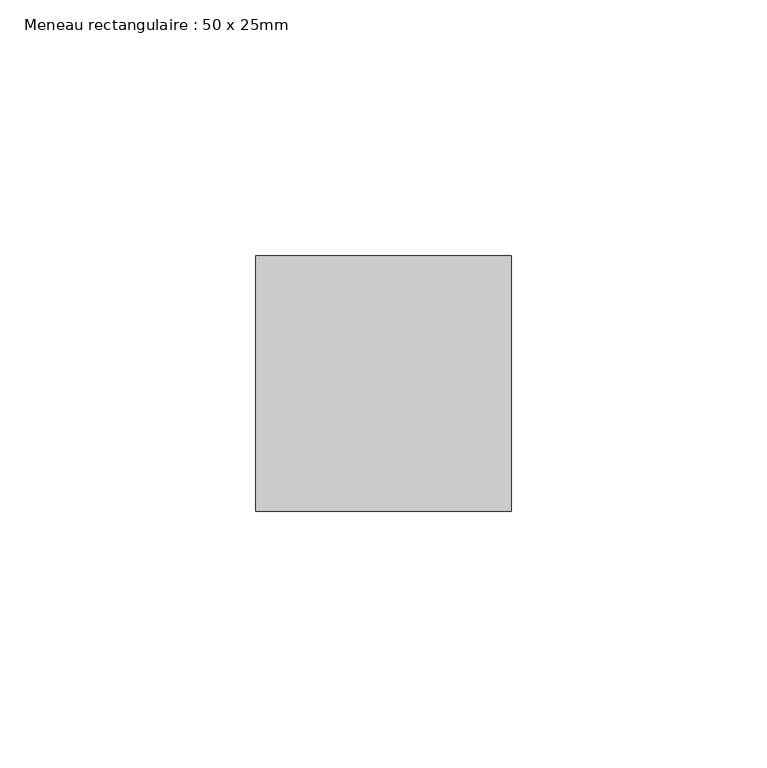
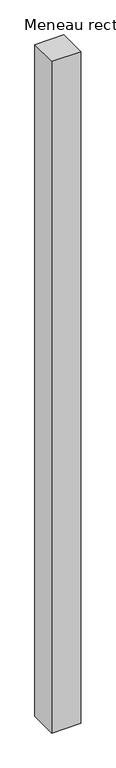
"""IFC4 building model written with IfcOpenShell, lengths in millimetres: member geometry, Meneau rectangulaire : 50 x 25mm."""

from ifc_helpers import new_model, si_unit, frame, origin, place, context, project, spatial, polyline, outline, extrude, source, transform, mapped, element, save


def meneau_rectangulaire_50_x_25mm_e0da25ca(model_context):
    return source(origin(), model_context, "Body", "SweptSolid", [
        extrude(outline(polyline([(0.0, 0.0), (0.0, -50.0), (-50.0, -50.0), (-50.0, 0.0), (0.0, 0.0)])), frame((0.0, 0.0, -1226.0), z_axis=(0.0, 0.0, 1.0), x_axis=(1.0, 0.0, 0.0)), (0.0, 0.0, 1.0), 1226.0),
    ])


if __name__ == "__main__":
    model = new_model("IFC4")
    model_context = context("Model", 3, world=origin())
    ifc_project = project(units=[si_unit("LENGTHUNIT", "METRE", prefix="MILLI")], contexts=[model_context])
    site = spatial("IfcSite", under=ifc_project)
    building = spatial("IfcBuilding", under=site)
    placement = place(None, origin())
    meneau_rectangulaire_50_x_25mm_shape = meneau_rectangulaire_50_x_25mm_e0da25ca(model_context)
    element("IfcMember", 1, ObjectType="Meneau rectangulaire : 50 x 25mm", at=placement, inside=building, context=model_context, shape_type="MappedRepresentation", body=[
        mapped(meneau_rectangulaire_50_x_25mm_shape, transform((0.0, 0.0, 0.0), x_axis=(1.0, 0.0, 0.0), y_axis=(0.0, 1.0, 0.0), z_axis=(0.0, 0.0, 1.0))),
    ])
    save(model, "model.ifc")
